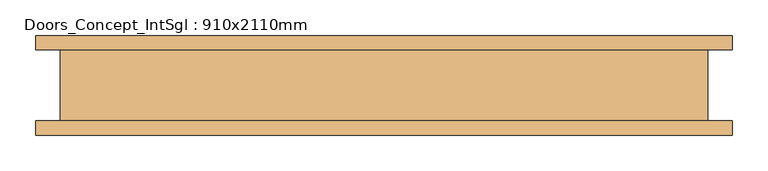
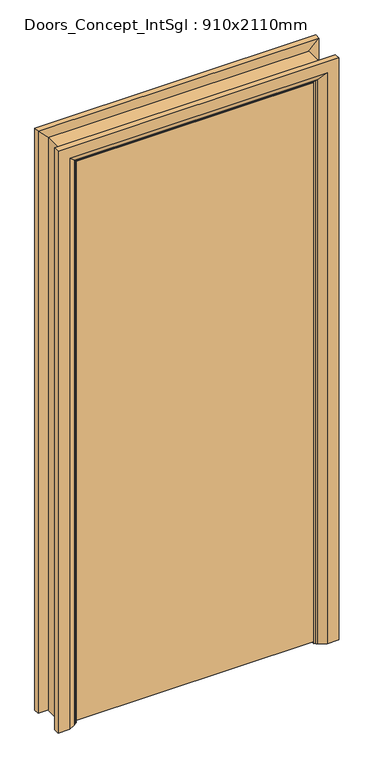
"""IFC4 building model written with IfcOpenShell, lengths in millimetres: door geometry, Doors_Concept_IntSgl : 910x2110mm."""

import ifcopenshell
import ifcopenshell.guid

model = None  # the IFC model being written
_history = None  # IfcOwnerHistory: only IFC2X3 demands one
_inside = {}  # id of a spatial element -> (the spatial element, [elements in it])
_under = {}  # id of a project, library or spatial element -> (it, [spatial elements below it])
_declared = {}  # id of a project -> (the project, [libraries it declares])
_typed = {}  # id of a type object -> (the type object, [elements of that type])
_made_of = {}  # id of a material, layer set ... -> (it, [elements and type objects made of it])


def new_model(schema):
    """Start an empty IFC model of exactly this schema.

    Asked for "IFC4X3", IfcOpenShell would pick the latest addendum, in which some entities
    have other attributes; the version numbers below select the first issue.
    IFC2X3 requires an IfcOwnerHistory on every rooted entity: one is made here for all.
    """
    global model, _history
    if schema == "IFC4X3":
        model = ifcopenshell.file(schema_version=(4, 3, 0, 0))
    else:
        model = ifcopenshell.file(schema=schema)
    _inside.clear()
    _under.clear()
    _declared.clear()
    _typed.clear()
    _made_of.clear()
    _history = None
    if model.schema == "IFC2X3":
        org = make("IfcOrganization", Name="unknown")
        user = make(
            "IfcPersonAndOrganization",
            ThePerson=make("IfcPerson", FamilyName="unknown"),
            TheOrganization=org,
        )
        app = make(
            "IfcApplication",
            ApplicationDeveloper=org,
            Version="unknown",
            ApplicationFullName="unknown",
            ApplicationIdentifier="unknown",
        )
        _history = make(
            "IfcOwnerHistory",
            OwningUser=user,
            OwningApplication=app,
            ChangeAction="ADDED",
            CreationDate=0,
        )
    return model


def make(cls, **values):
    """One entity of the class cls with the attributes given. An attribute that is None is left unset."""
    return model.create_entity(
        cls, **{name: value for name, value in values.items() if value is not None}
    )


def rooted(cls, **values):
    """An entity with a GlobalId (a new one), such as an element, a storey or a relation."""
    return make(cls, GlobalId=ifcopenshell.guid.new(), OwnerHistory=_history, **values)


def si_unit(unit_type, name, prefix=None):
    """IfcSIUnit, for example si_unit("LENGTHUNIT", "METRE", prefix="MILLI")."""
    return make("IfcSIUnit", UnitType=unit_type, Prefix=prefix, Name=name)


def assignment(units):
    """IfcUnitAssignment: the units of a project."""
    return None if units is None else make("IfcUnitAssignment", Units=units)


def point(xyz):
    """IfcCartesianPoint."""
    return None if xyz is None else make("IfcCartesianPoint", Coordinates=xyz)


def direction(xyz):
    """IfcDirection."""
    return None if xyz is None else make("IfcDirection", DirectionRatios=xyz)


def frame(location, z_axis=None, x_axis=None):
    """IfcAxis2Placement3D, a coordinate frame: its origin and axes. An axis left out is left unset."""
    return make(
        "IfcAxis2Placement3D",
        Location=point(location),
        Axis=direction(z_axis),
        RefDirection=direction(x_axis),
    )


def origin():
    """The frame at (0, 0, 0) with its axes left unset."""
    return frame((0.0, 0.0, 0.0))


def place(relative_to, where):
    """IfcLocalPlacement: puts the frame where relative to a parent placement (None: the world)."""
    return make(
        "IfcLocalPlacement", PlacementRelTo=relative_to, RelativePlacement=where
    )


def context(
    kind, dimensions, precision=None, world=None, true_north=None, identifier=None
):
    """IfcGeometricRepresentationContext, for example the 3D "Model" context."""
    return make(
        "IfcGeometricRepresentationContext",
        ContextIdentifier=identifier,
        ContextType=kind,
        CoordinateSpaceDimension=dimensions,
        Precision=precision,
        WorldCoordinateSystem=world,
        TrueNorth=true_north,
    )


def project(units=None, contexts=None):
    """IfcProject with its units and contexts."""
    return rooted(
        "IfcProject",
        Name="project",
        RepresentationContexts=contexts,
        UnitsInContext=assignment(units),
    )


def spatial(cls, under=None, at=None, **own):
    """A site, building, storey or space (cls), placed at a placement, below another one or the project."""
    s = rooted(cls, ObjectPlacement=at, **own)
    if under is not None:
        _under.setdefault(under.id(), (under, []))[1].append(s)
    return s


def polyline(points):
    """IfcPolyline through the points."""
    return make("IfcPolyline", Points=[point(p) for p in points])


def circle_curve(where, radius):
    """IfcCircle in the frame where."""
    return make("IfcCircle", Position=where, Radius=radius)


def ellipse_curve(where, semi_axis1, semi_axis2):
    """IfcEllipse in the frame where."""
    return make(
        "IfcEllipse", Position=where, SemiAxis1=semi_axis1, SemiAxis2=semi_axis2
    )


def outline(outer, holes=None, kind="AREA"):
    """IfcArbitraryClosedProfileDef: a profile drawn as a closed curve; with holes, ...WithVoids."""
    if holes is None:
        return make("IfcArbitraryClosedProfileDef", ProfileType=kind, OuterCurve=outer)
    return make(
        "IfcArbitraryProfileDefWithVoids",
        ProfileType=kind,
        OuterCurve=outer,
        InnerCurves=holes,
    )


def extrude(swept, where, along, depth):
    """IfcExtrudedAreaSolid: the profile swept, set in the frame where, extruded along a direction by depth."""
    return make(
        "IfcExtrudedAreaSolid",
        SweptArea=swept,
        Position=where,
        ExtrudedDirection=direction(along),
        Depth=depth,
    )


def faces_of(points, faces, orient=None, outer=None):
    """IfcFace entities. A face is a list of loops; a loop is a list of indices into points, from 0.

    orient and outer hold one flag for each loop. By default every Orientation is true, the
    first loop of a face is its IfcFaceOuterBound and the others are IfcFaceBound.
    """
    made = []
    for i, loops in enumerate(faces):
        bounds = []
        for j, loop in enumerate(loops):
            is_outer = j == 0 if outer is None else outer[i][j]
            bounds.append(
                make(
                    "IfcFaceOuterBound" if is_outer else "IfcFaceBound",
                    Bound=make("IfcPolyLoop", Polygon=[points[k] for k in loop]),
                    Orientation=True if orient is None else orient[i][j],
                )
            )
        made.append(make("IfcFace", Bounds=bounds))
    return made


def faceted_brep(points, faces, orient=None, outer=None, voids=None):
    """IfcFacetedBrep: a solid bounded by flat faces; with voids (closed shells), ...WithVoids."""
    shared = [point(p) for p in points]
    hull = make("IfcClosedShell", CfsFaces=faces_of(shared, faces, orient, outer))
    if voids is None:
        return make("IfcFacetedBrep", Outer=hull)
    return make(
        "IfcFacetedBrepWithVoids",
        Outer=hull,
        Voids=[
            make(cls, CfsFaces=faces_of(shared, fs, o, b)) for cls, fs, o, b in voids
        ],
    )


def shape(context_of_items, identifier, shape_type, items):
    """IfcShapeRepresentation: the items that make up one representation, for example the "Body"."""
    return make(
        "IfcShapeRepresentation",
        ContextOfItems=context_of_items,
        RepresentationIdentifier=identifier,
        RepresentationType=shape_type,
        Items=items,
    )


def source(mapping_origin, context_of_items, identifier, shape_type, items):
    """IfcRepresentationMap: a shape defined once, which mapped items show again and again."""
    return make(
        "IfcRepresentationMap",
        MappingOrigin=mapping_origin,
        MappedRepresentation=shape(context_of_items, identifier, shape_type, items),
    )


def transform(
    local_origin,
    x_axis=None,
    y_axis=None,
    z_axis=None,
    scale=None,
    scale2=None,
    scale3=None,
    uniform=True,
):
    """IfcCartesianTransformationOperator3D, or its non-uniform kind. x_axis, y_axis, z_axis: its Axis1, 2, 3."""
    if uniform:
        return make(
            "IfcCartesianTransformationOperator3D",
            Axis1=direction(x_axis),
            Axis2=direction(y_axis),
            LocalOrigin=point(local_origin),
            Scale=scale,
            Axis3=direction(z_axis),
        )
    return make(
        "IfcCartesianTransformationOperator3DnonUniform",
        Axis1=direction(x_axis),
        Axis2=direction(y_axis),
        LocalOrigin=point(local_origin),
        Scale=scale,
        Axis3=direction(z_axis),
        Scale2=scale2,
        Scale3=scale3,
    )


def mapped(mapping_source, mapping_target):
    """IfcMappedItem: shows the shape of a source again, moved by a transform."""
    return make(
        "IfcMappedItem", MappingSource=mapping_source, MappingTarget=mapping_target
    )


def made_of(thing, what):
    """Note that an element or type object is made of a material, layer set ...; save() writes the relation."""
    if what is not None:
        _made_of.setdefault(what.id(), (what, []))[1].append(thing)
    return thing


def element(
    cls,
    number,
    at=None,
    inside=None,
    cuts=None,
    type_object=None,
    material=None,
    context=None,
    identifier="Body",
    shape_type=None,
    held_by="IfcProductDefinitionShape",
    body=None,
    shapes=None,
    **own,
):
    """One element of the class cls, such as IfcWall. Its Tag is "e" and its number.

    at: its placement. inside: the storey or other place that contains it. cuts: it is an
    opening in that element (IfcRelVoidsElement). A single representation is given by context,
    identifier, shape_type and body (its items); several are given by shapes. held_by: the class
    of the entity that holds the representations. save() writes the other relations.
    """
    e = rooted(cls, Tag="e%d" % number, ObjectPlacement=at, **own)
    if body is not None:
        shapes = [shape(context, identifier, shape_type, body)]
    if shapes is not None:
        e.Representation = make(held_by, Representations=shapes)
    if inside is not None:
        _inside.setdefault(inside.id(), (inside, []))[1].append(e)
    if cuts is not None:
        rooted(
            "IfcRelVoidsElement", RelatingBuildingElement=cuts, RelatedOpeningElement=e
        )
    if type_object is not None:
        _typed.setdefault(type_object.id(), (type_object, []))[1].append(e)
    return made_of(e, material)


def aggregate(whole, parts):
    """IfcRelAggregates: a whole, such as a stair, and the parts it consists of."""
    return rooted("IfcRelAggregates", RelatingObject=whole, RelatedObjects=parts)


def save(model, path):
    """Write the relations noted so far, then the file.

    IfcRelAggregates (storeys below a building ...), IfcRelContainedInSpatialStructure (elements
    in a storey), IfcRelDefinesByType, IfcRelAssociatesMaterial and IfcRelDeclares: one each for
    every whole, place, type object, material and project.
    """
    for whole, parts in _under.values():
        aggregate(whole, parts)
    for where, things in _inside.values():
        rooted(
            "IfcRelContainedInSpatialStructure",
            RelatedElements=things,
            RelatingStructure=where,
        )
    for kind, things in _typed.values():
        rooted("IfcRelDefinesByType", RelatedObjects=things, RelatingType=kind)
    for what, things in _made_of.values():
        rooted("IfcRelAssociatesMaterial", RelatedObjects=things, RelatingMaterial=what)
    for by, libraries in _declared.values():
        rooted("IfcRelDeclares", RelatingContext=by, RelatedDefinitions=libraries)
    model.write(path)


def plane_surface(at):
    """IfcPlane: the flat surface through the origin of the frame at, square to its z axis."""
    return make("IfcPlane", Position=at)


def cylinder_surface(at, radius):
    """IfcCylindricalSurface: all points at the distance radius from the z axis of the frame at."""
    return make("IfcCylindricalSurface", Position=at, Radius=radius)


def advanced_brep(points, edges, surfaces, faces):
    """IfcAdvancedBrep: a solid bounded by faces that lie on surfaces and meet in shared edges.

    An edge is (start, end): straight between two places in points (the first is 0);
    or (start, end, curve); or (start, end, curve, False) where it runs against its curve.
    A face is (place in surfaces, loops), or (place, loops, False) where it looks against
    its surface's normal. A loop lists edges by number (the first is 1), with a minus sign
    where the edge is run from its end to its start. The first loop is the outer one.
    """
    corners = [point(p) for p in points]
    vertices = [make("IfcVertexPoint", VertexGeometry=c) for c in corners]
    made = []
    for start, end, *more in edges:
        made.append(
            make(
                "IfcEdgeCurve",
                EdgeStart=vertices[start],
                EdgeEnd=vertices[end],
                EdgeGeometry=more[0] if more else make("IfcPolyline", Points=[corners[start], corners[end]]),
                SameSense=more[1] if len(more) > 1 else True,
            )
        )
    hull = []
    for where, loops, *sense in faces:
        bounds = []
        for j, loop in enumerate(loops):
            ring = [make("IfcOrientedEdge", EdgeElement=made[abs(k) - 1], Orientation=k > 0) for k in loop]
            bounds.append(
                make(
                    "IfcFaceOuterBound" if j == 0 else "IfcFaceBound",
                    Bound=make("IfcEdgeLoop", EdgeList=ring),
                    Orientation=True,
                )
            )
        hull.append(make("IfcAdvancedFace", Bounds=bounds, FaceSurface=surfaces[where], SameSense=sense[0] if sense else True))
    return make("IfcAdvancedBrep", Outer=make("IfcClosedShell", CfsFaces=hull))


def doors_concept_intsgl_910x2110mm_f82baad5(model_context):
    return source(origin(), model_context, "Body", "SolidModel", [
        extrude(outline(polyline([(413.0, -12.0), (413.0, -50.0), (-413.0, -50.0), (-413.0, -12.0), (413.0, -12.0)])), frame((0.0, 0.0, 8.0), z_axis=(0.0, 0.0, 1.0), x_axis=(1.0, 0.0, 0.0)), (0.0, 0.0, 1.0), 2060.0),
        advanced_brep(
        [(490.0, -70.0, 0.0), (450.0, -70.0, 0.0), (424.0, -56.0, 0.0), (420.0, -50.0, 0.0), (490.0, -50.0, 0.0), (490.0, -50.0, 2145.0), (490.0, -70.0, 2145.0), (420.0, -50.0, 2075.0), (-420.0, -50.0, 2075.0), (-420.0, -50.0, 0.0), (-490.0, -50.0, 0.0), (-490.0, -50.0, 2145.0), (424.0, -56.0, 2079.0), (450.0, -70.0, 2105.0), (-490.0, -70.0, 2145.0), (-490.0, -70.0, 0.0), (-450.0, -70.0, 0.0), (-450.0, -70.0, 2105.0), (-424.0, -56.0, 0.0), (-424.0, -56.0, 2079.0)],
        [
            (0, 1),
            (1, 2),
            (2, 3, circle_curve(frame((428.0, -49.0, 0.0), z_axis=(0.0, 0.0, -1.0), x_axis=(1.0, 0.0, 0.0)), 8.0622577)),
            (3, 4),
            (4, 0),
            (4, 5),
            (5, 6),
            (6, 0),
            (3, 7),
            (7, 8),
            (8, 9),
            (9, 10),
            (10, 11),
            (11, 5),
            (2, 12),
            (12, 7, ellipse_curve(frame((428.0, -49.0, 2083.0), z_axis=(0.7071067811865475, 0.0, -0.7071067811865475), x_axis=(-0.7071067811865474, 0.0, -0.7071067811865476)), 11.4017543, 8.0622577)),
            (1, 13),
            (13, 12),
            (6, 14),
            (14, 15),
            (15, 16),
            (16, 17),
            (17, 13),
            (10, 15),
            (14, 11),
            (9, 18, circle_curve(frame((-428.0, -49.0, 0.0), z_axis=(0.0, 0.0, -1.0), x_axis=(-1.0, 0.0, 0.0)), 8.0622577)),
            (18, 16),
            (19, 18),
            (8, 19, ellipse_curve(frame((-428.0, -49.0, 2083.0), z_axis=(-0.7071067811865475, 0.0, -0.7071067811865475), x_axis=(-0.7071067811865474, 0.0, 0.7071067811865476)), 11.4017543, 8.0622577)),
            (19, 17),
            (12, 19),
        ],
        [
            plane_surface(frame((420.0, -50.0, 0.0), z_axis=(0.0, 0.0, -1.0), x_axis=(0.0, 1.0, 0.0))),
            plane_surface(frame((490.0, -70.0, 0.0), z_axis=(1.0, 0.0, 0.0), x_axis=(0.0, 0.0, 1.0))),
            plane_surface(frame((490.0, -50.0, 0.0), z_axis=(0.0, 1.0, 0.0), x_axis=(0.0, 0.0, 1.0))),
            cylinder_surface(frame((428.0, -49.0, 0.0), z_axis=(0.0, 0.0, -1.0), x_axis=(1.0, 0.0, 0.0)), 8.0622577),
            plane_surface(frame((424.0, -56.0, 0.0), z_axis=(-0.4740998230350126, -0.880471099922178, 0.0), x_axis=(0.0, 0.0, 1.0))),
            plane_surface(frame((450.0, -70.0, 0.0), z_axis=(0.0, -1.0, 0.0), x_axis=(0.0, 0.0, 1.0))),
            plane_surface(frame((-490.0, -70.0, 2145.0), z_axis=(-1.0, 0.0, 0.0), x_axis=(0.0, 0.0, -1.0))),
            plane_surface(frame((-420.0, -50.0, 0.0), z_axis=(0.0, 0.0, -1.0), x_axis=(0.0, 1.0, 0.0))),
            cylinder_surface(frame((-428.0, -49.0, 2075.0), z_axis=(0.0, 0.0, 1.0), x_axis=(-1.0, 0.0, 0.0)), 8.0622577),
            plane_surface(frame((-424.0, -56.0, 2079.0), z_axis=(0.47409982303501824, -0.8804710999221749, 0.0), x_axis=(0.0, 0.0, -1.0))),
            plane_surface(frame((490.0, -70.0, 2145.0), z_axis=(0.0, 0.0, 1.0), x_axis=(-1.0, 0.0, 0.0))),
            cylinder_surface(frame((420.0, -49.0, 2083.0), z_axis=(1.0, 0.0, 0.0), x_axis=(0.0, 0.0, 1.0)), 8.0622577),
            plane_surface(frame((424.0, -56.0, 2079.0), z_axis=(0.0, -0.8804710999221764, -0.4740998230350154), x_axis=(-1.0, 0.0, 0.0))),
        ],
        [
            (0, [[1, 2, 3, 4, 5]]),
            (1, [[6, 7, 8, -5]]),
            (2, [[9, 10, 11, 12, 13, 14, -6, -4]]),
            (3, [[15, 16, -9, -3]]),
            (4, [[17, 18, -15, -2]]),
            (5, [[-8, 19, 20, 21, 22, 23, -17, -1]]),
            (6, [[-13, 24, -20, 25]]),
            (7, [[-24, -12, 26, 27, -21]]),
            (8, [[28, -26, -11, 29]]),
            (9, [[-22, -27, -28, 30]]),
            (10, [[-14, -25, -19, -7]]),
            (11, [[31, -29, -10, -16]]),
            (12, [[-23, -30, -31, -18]]),
        ],
    ),
        extrude(outline(polyline([(0.0, -396.0), (2051.0, -396.0), (2051.0, 396.0), (0.0, 396.0), (0.0, 415.0), (2070.0, 415.0), (2070.0, -415.0), (0.0, -415.0), (0.0, -396.0)])), frame((0.0, -10.0, 0.0), z_axis=(0.0, 1.0, 0.0), x_axis=(0.0, 0.0, 1.0)), (0.0, 0.0, 1.0), 32.0),
        advanced_brep(
        [(-490.0, 70.0, 0.0), (-450.0, 70.0, 0.0), (-424.0, 56.0, 0.0), (-420.0, 50.0, 0.0), (-490.0, 50.0, 0.0), (-490.0, 50.0, 2145.0), (-490.0, 70.0, 2145.0), (-420.0, 50.0, 2075.0), (-424.0, 56.0, 2079.0), (-450.0, 70.0, 2105.0), (490.0, 70.0, 0.0), (490.0, 50.0, 0.0), (420.0, 50.0, 0.0), (424.0, 56.0, 0.0), (450.0, 70.0, 0.0), (490.0, 70.0, 2145.0), (450.0, 70.0, 2105.0), (424.0, 56.0, 2079.0), (420.0, 50.0, 2075.0), (490.0, 50.0, 2145.0)],
        [
            (0, 1),
            (1, 2),
            (2, 3, circle_curve(frame((-428.0, 49.0, 0.0), z_axis=(0.0, 0.0, -1.0), x_axis=(-1.0, 0.0, 0.0)), 8.0622577)),
            (3, 4),
            (4, 0),
            (4, 5),
            (5, 6),
            (6, 0),
            (3, 7),
            (7, 5),
            (2, 8),
            (8, 7, ellipse_curve(frame((-428.0, 49.0, 2083.0), z_axis=(-0.7071067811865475, 0.0, -0.7071067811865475), x_axis=(0.7071067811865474, 0.0, -0.7071067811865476)), 11.4017543, 8.0622577)),
            (1, 9),
            (9, 8),
            (6, 9),
            (10, 11),
            (11, 12),
            (12, 13, circle_curve(frame((428.0, 49.0, 0.0), z_axis=(0.0, 0.0, -1.0), x_axis=(1.0, 0.0, 0.0)), 8.0622577)),
            (13, 14),
            (14, 10),
            (15, 10),
            (14, 16),
            (16, 15),
            (13, 17),
            (17, 16),
            (12, 18),
            (18, 17, ellipse_curve(frame((428.0, 49.0, 2083.0), z_axis=(0.7071067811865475, 0.0, -0.7071067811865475), x_axis=(0.7071067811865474, 0.0, 0.7071067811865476)), 11.4017543, 8.0622577)),
            (11, 19),
            (19, 18),
            (15, 19),
            (5, 19),
            (15, 6),
            (7, 18),
            (8, 17),
            (9, 16),
        ],
        [
            plane_surface(frame((-420.0, 122.8010989, 0.0), z_axis=(0.0, 0.0, -1.0), x_axis=(1.0, 0.0, 0.0))),
            plane_surface(frame((-490.0, 70.0, 0.0), z_axis=(-1.0, 0.0, 0.0), x_axis=(0.0, 0.0, 1.0))),
            plane_surface(frame((-490.0, 50.0, 0.0), z_axis=(0.0, -1.0, 0.0), x_axis=(0.0, 0.0, 1.0))),
            cylinder_surface(frame((-428.0, 49.0, 0.0), z_axis=(0.0, 0.0, -1.0), x_axis=(-1.0, 0.0, 0.0)), 8.0622577),
            plane_surface(frame((-424.0, 56.0, 0.0), z_axis=(0.4740998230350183, 0.8804710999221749, 0.0), x_axis=(0.0, 0.0, 1.0))),
            plane_surface(frame((-450.0, 70.0, 0.0), z_axis=(0.0, 1.0, 0.0), x_axis=(0.0, 0.0, 1.0))),
            plane_surface(frame((420.0, 122.8010989, 0.0), z_axis=(0.0, 0.0, -1.0), x_axis=(-1.0, 0.0, 0.0))),
            plane_surface(frame((450.0, 70.0, 2105.0), z_axis=(0.0, 1.0, 0.0), x_axis=(0.0, 0.0, -1.0))),
            plane_surface(frame((424.0, 56.0, 2079.0), z_axis=(-0.4740998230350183, 0.8804710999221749, 0.0), x_axis=(0.0, 0.0, -1.0))),
            cylinder_surface(frame((428.0, 49.0, 2075.0), z_axis=(0.0, 0.0, 1.0), x_axis=(1.0, 0.0, 0.0)), 8.0622577),
            plane_surface(frame((490.0, 50.0, 2145.0), z_axis=(0.0, -1.0, 0.0), x_axis=(0.0, 0.0, -1.0))),
            plane_surface(frame((490.0, 70.0, 2145.0), z_axis=(1.0, 0.0, 0.0), x_axis=(0.0, 0.0, -1.0))),
            plane_surface(frame((-490.0, 70.0, 2145.0), z_axis=(0.0, 0.0, 1.0), x_axis=(1.0, 0.0, 0.0))),
            plane_surface(frame((-490.0, 50.0, 2145.0), z_axis=(0.0, -1.0, 0.0), x_axis=(1.0, 0.0, 0.0))),
            cylinder_surface(frame((-420.0, 49.0, 2083.0), z_axis=(-1.0, 0.0, 0.0), x_axis=(0.0, 0.0, 1.0)), 8.0622577),
            plane_surface(frame((-424.0, 56.0, 2079.0), z_axis=(0.0, 0.8804710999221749, -0.4740998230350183), x_axis=(1.0, 0.0, 0.0))),
            plane_surface(frame((-450.0, 70.0, 2105.0), z_axis=(0.0, 1.0, 0.0), x_axis=(1.0, 0.0, 0.0))),
        ],
        [
            (0, [[1, 2, 3, 4, 5]]),
            (1, [[6, 7, 8, -5]]),
            (2, [[9, 10, -6, -4]]),
            (3, [[11, 12, -9, -3]]),
            (4, [[13, 14, -11, -2]]),
            (5, [[-8, 15, -13, -1]]),
            (6, [[16, 17, 18, 19, 20]]),
            (7, [[21, -20, 22, 23]]),
            (8, [[-22, -19, 24, 25]]),
            (9, [[-24, -18, 26, 27]]),
            (10, [[-26, -17, 28, 29]]),
            (11, [[-28, -16, -21, 30]]),
            (12, [[31, -30, 32, -7]]),
            (13, [[33, -29, -31, -10]]),
            (14, [[34, -27, -33, -12]]),
            (15, [[35, -25, -34, -14]]),
            (16, [[-32, -23, -35, -15]]),
        ],
    ),
        faceted_brep([(-415.0, 50.0, 0.0), (-415.0, -50.0, 0.0), (-455.0, -50.0, 0.0), (-455.0, 50.0, 0.0), (-455.0, 50.0, 2110.0), (-415.0, 50.0, 2070.0), (-455.0, -50.0, 2110.0), (-415.0, -50.0, 2070.0), (415.0, 50.0, 0.0), (455.0, 50.0, 0.0), (455.0, -50.0, 0.0), (415.0, -50.0, 0.0), (415.0, 50.0, 2070.0), (415.0, -50.0, 2070.0), (455.0, -50.0, 2110.0), (455.0, 50.0, 2110.0)], [[[0, 1, 2, 3]], [[3, 4, 5, 0]], [[2, 6, 4, 3]], [[1, 7, 6, 2]], [[0, 5, 7, 1]], [[8, 9, 10, 11]], [[12, 8, 11, 13]], [[13, 11, 10, 14]], [[14, 10, 9, 15]], [[15, 9, 8, 12]], [[4, 15, 12, 5]], [[6, 14, 15, 4]], [[7, 13, 14, 6]], [[5, 12, 13, 7]]]),
    ])


if __name__ == "__main__":
    model = new_model("IFC4")
    model_context = context("Model", 3, world=origin())
    ifc_project = project(units=[si_unit("LENGTHUNIT", "METRE", prefix="MILLI")], contexts=[model_context])
    site = spatial("IfcSite", under=ifc_project)
    building = spatial("IfcBuilding", under=site)
    placement = place(None, origin())
    doors_concept_intsgl_910x2110mm_shape = doors_concept_intsgl_910x2110mm_f82baad5(model_context)
    element("IfcDoor", 1, ObjectType="Doors_Concept_IntSgl : 910x2110mm", at=placement, inside=building, context=model_context, shape_type="MappedRepresentation", body=[
        mapped(doors_concept_intsgl_910x2110mm_shape, transform((0.0, 0.0, 0.0), x_axis=(1.0, 0.0, 0.0), y_axis=(0.0, 1.0, 0.0), z_axis=(0.0, 0.0, 1.0))),
    ])
    save(model, "model.ifc")
